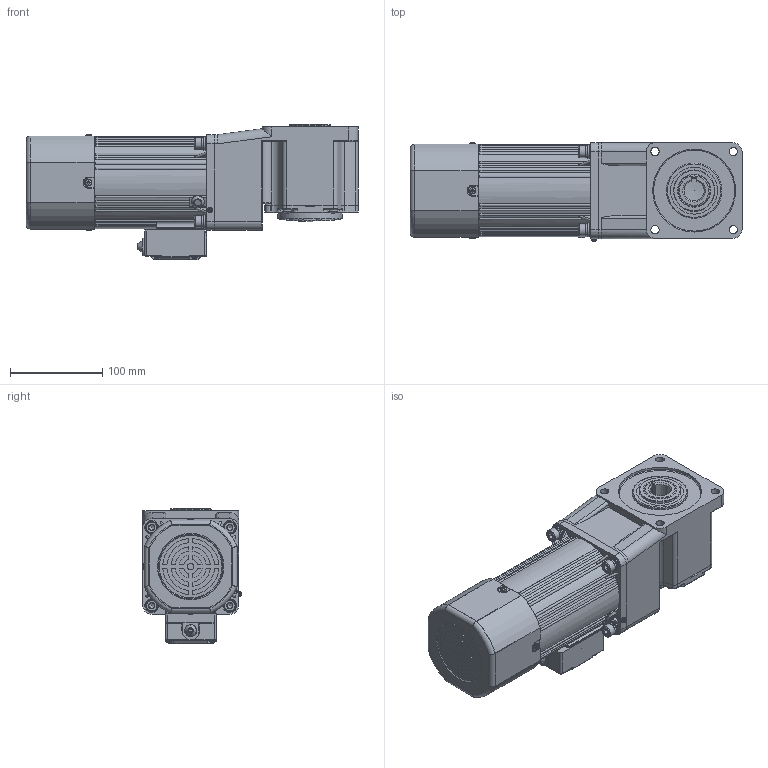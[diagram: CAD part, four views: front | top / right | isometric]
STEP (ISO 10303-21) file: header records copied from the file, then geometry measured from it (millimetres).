
FILE_DESCRIPTION(/* description */ (''),/* implementation_level */ '2;1');
FILE_NAME(/* name */ '100+直角中空-刹车调速风叶-160-250W 新版长款接线盒.stp',/* time_stamp */ '2025-04-07T20:01:33+08:00',/* author */ (''),/* organization */ (''),/* preprocessor_version */ 'ST-DEVELOPER v18.102',/* originating_system */ 'SIEMENS PLM Software NX 2027',/* authorisation */ '');
FILE_SCHEMA (('AP203_CONFIGURATION_CONTROLLED_3D_DESIGN_OF_MECHANICAL_PARTS_AND_ASSEMBLIES_MIM_LF { 1 0 10303 403 2 1 2}'));
Products named in the file (1): 100+直角中空-刹车调速风叶-160-250
W 新版_stp_objects
Bounding box: 360.5 x 106.83 x 147.5 mm (x, y, z)
Volume: 3460652.1 mm3; surface area: 485793.9 mm2
Topology: 25 solids, 25 shells, 2415 faces, 6278 edges, 4027 vertices
Faces by surface type: plane 1098, cylinder 780, bspline 223, torus 152, cone 116, sphere 46
Full cylindrical faces by diameter (mm): 2.2 x2, 2.5 x2, 2.6 x2, 2.7 x1, 2.9 x4, 3 x1, 3.2 x2, 3.3 x6, 3.5 x8, 3.6 x4, 4 x4, 4.2 x1, 4.55 x2, 4.8 x1, 5.1 x2, 5.15 x2, 5.6 x4, 6 x12, 6.8 x12, 7 x3, 7.5 x2, 7.76 x4, 8 x1, 8.4 x4, 9 x13, 9.3 x1, 9.5 x4, 10 x2, 13 x4, 14 x8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
Entity records: 75179 total; most frequent: CARTESIAN_POINT 18482, ORIENTED_EDGE 11592, DIRECTION 11341, EDGE_CURVE 5796, AXIS2_PLACEMENT_3D 4361, VERTEX_POINT 3875, EDGE_LOOP 2970, LINE 2619
